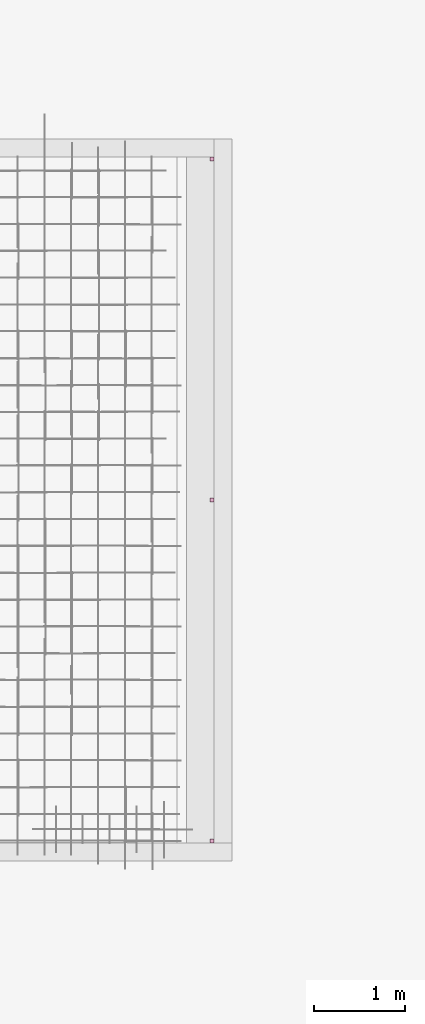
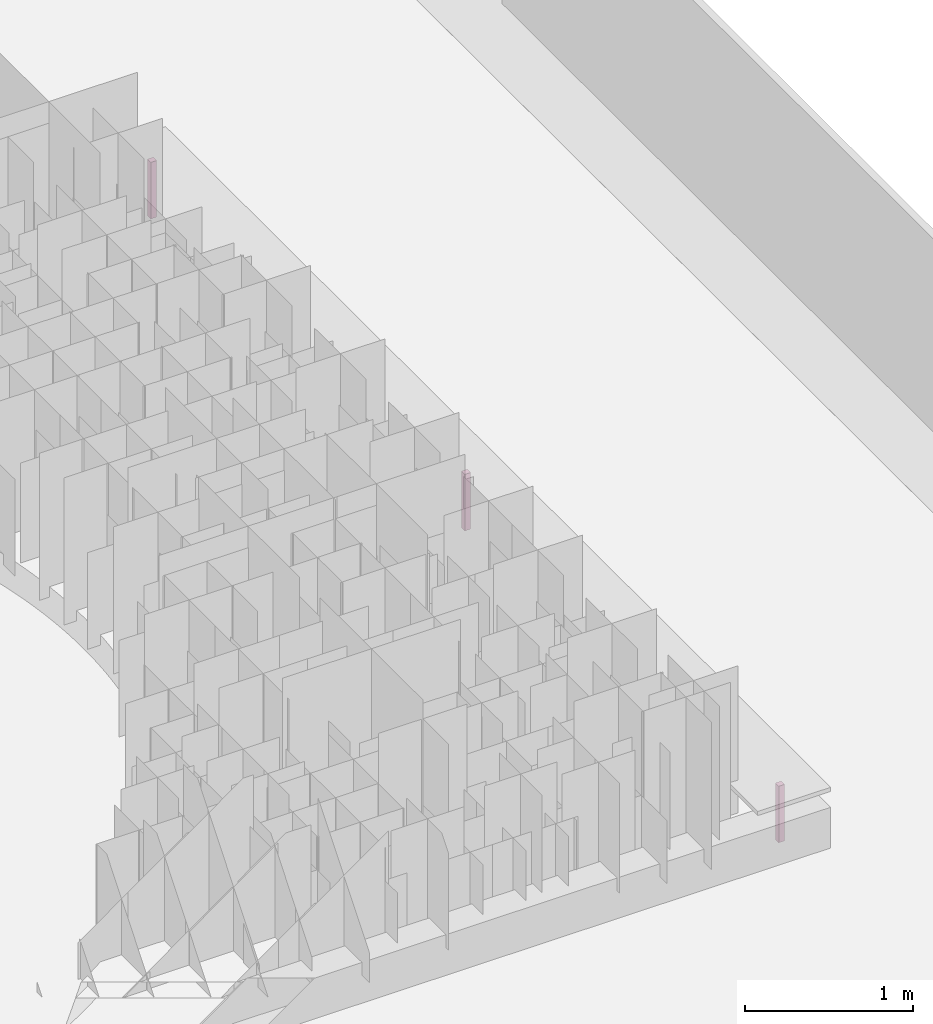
# One storey, part 103 of 105: 3 furniture elements.
"""IFC4 building model written with IfcOpenShell, lengths in millimetres."""

from ifc_helpers import new_model, entity, si_unit, converted_unit, derived_unit, direction, frame, origin_with_axes, place, context, subcontext, project, spatial, line, indexed_curve, outline, extrude, material, type_object, element, save


model = new_model("IFC4")

# Units and contexts
model_context = context("Model", 3, precision=1e-05, world=origin_with_axes(), true_north=direction((0.0, 1.0)))
body_context = subcontext(model_context, "Body", "Model", "MODEL_VIEW")
ifc_project = project(units=[si_unit("LENGTHUNIT", "METRE", prefix="MILLI"), si_unit("AREAUNIT", "SQUARE_METRE"), si_unit("VOLUMEUNIT", "CUBIC_METRE"), converted_unit("PLANEANGLEUNIT", "DEGREE", entity("IfcLengthMeasure", 0.017453), si_unit("PLANEANGLEUNIT", "RADIAN"), dimensions=[0, 0, 0, 0, 0, 0, 0]), si_unit("SOLIDANGLEUNIT", "STERADIAN"), si_unit("MASSUNIT", "GRAM"), si_unit("TIMEUNIT", "SECOND"), si_unit("THERMODYNAMICTEMPERATUREUNIT", "DEGREE_CELSIUS"), si_unit("LUMINOUSINTENSITYUNIT", "LUMEN"), si_unit("POWERUNIT", "WATT"), derived_unit("THERMALTRANSMITTANCEUNIT", [(si_unit("POWERUNIT", "WATT"), 1), (si_unit("THERMODYNAMICTEMPERATUREUNIT", "KELVIN"), -1), (si_unit("AREAUNIT", "SQUARE_METRE"), -1)])], contexts=[model_context])

# Site, building, storey
site_placement = place(None, origin_with_axes())
site = spatial("IfcSite", under=ifc_project, at=site_placement, Name="Default Site", CompositionType="ELEMENT")
building_placement = place(site_placement, origin_with_axes())
building = spatial("IfcBuilding", under=site, at=building_placement, Name="Default Building", CompositionType="ELEMENT")
storey_placement = place(building_placement, origin_with_axes())
storey = spatial("IfcBuildingStorey", under=building, at=storey_placement, Name="OG - Story", CompositionType="ELEMENT", Elevation=0.0)

# Furniture
ifc_material = material(Name="Default")
furniture_type_1 = type_object("IfcFurnitureType", Name="Bank", PredefinedType="NOTDEFINED", material=ifc_material)
furniture_1_placement = place(storey_placement, origin_with_axes())
element("IfcFurniture", 1, at=furniture_1_placement, inside=storey, type_object=furniture_type_1, Name="Bank", context=body_context, shape_type="SweptSolid", body=[
    extrude(outline(indexed_curve([(76779.438, -30479.262), (76819.438, -30479.262), (76819.438, -30439.262), (76779.438, -30439.262)], segments=[line(1, 2), line(2, 3), line(3, 4), line(4, 1)])), frame((0.0, 0.0, 3000.0), z_axis=(0.0, 0.0, 1.0), x_axis=(1.0, 0.0, 0.0)), (0.0, 0.0, 1.0), 410.0),
])
furniture_type_2 = type_object("IfcFurnitureType", Name="Bank", PredefinedType="NOTDEFINED", material=ifc_material)
furniture_2_placement = place(storey_placement, frame((0.002112, -3730.737162, 0.0), z_axis=(0.0, 0.0, 1.0), x_axis=(1.0, 0.0, 0.0)))
element("IfcFurniture", 2, at=furniture_2_placement, inside=storey, type_object=furniture_type_2, Name="Bank", context=body_context, shape_type="SweptSolid", body=[
    extrude(outline(indexed_curve([(76779.438, -30479.262), (76819.438, -30479.262), (76819.438, -30439.262), (76779.438, -30439.262)], segments=[line(1, 2), line(2, 3), line(3, 4), line(4, 1)])), frame((0.0, 0.0, 3000.0), z_axis=(0.0, 0.0, 1.0), x_axis=(1.0, 0.0, 0.0)), (0.0, 0.0, 1.0), 410.0),
])
furniture_type_3 = type_object("IfcFurnitureType", Name="Bank", PredefinedType="NOTDEFINED", material=ifc_material)
furniture_3_placement = place(storey_placement, frame((0.0, -7460.0, 0.0), z_axis=(0.0, 0.0, 1.0), x_axis=(1.0, 0.0, 0.0)))
element("IfcFurniture", 3, at=furniture_3_placement, inside=storey, type_object=furniture_type_3, Name="Bank", context=body_context, shape_type="SweptSolid", body=[
    extrude(outline(indexed_curve([(76779.438, -30479.262), (76819.438, -30479.262), (76819.438, -30439.262), (76779.438, -30439.262)], segments=[line(1, 2), line(2, 3), line(3, 4), line(4, 1)])), frame((0.0, 0.0, 3000.0), z_axis=(0.0, 0.0, 1.0), x_axis=(1.0, 0.0, 0.0)), (0.0, 0.0, 1.0), 410.0),
])

save(model, "model.ifc")
